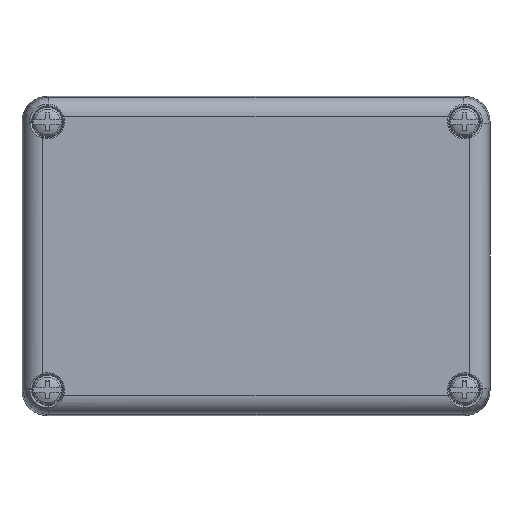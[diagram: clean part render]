
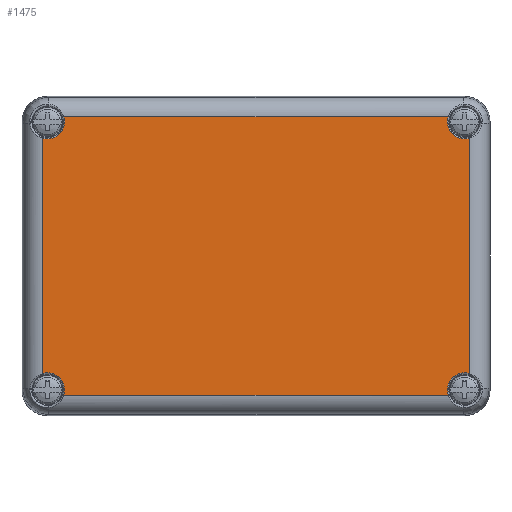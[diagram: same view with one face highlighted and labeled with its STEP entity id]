
A CAD part, top view. The second image highlights one B-rep face of the part: STEP entity #1475.
In plain terms, the highlighted planar face has unit normal (0, 0, 1).
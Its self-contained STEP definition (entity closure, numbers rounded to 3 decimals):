
#730=LINE('',#7535,#1056);
#731=LINE('',#7539,#1057);
#732=LINE('',#7540,#1058);
#733=LINE('',#7544,#1059);
#1056=VECTOR('',#4293,1.);
#1057=VECTOR('',#4296,1.);
#1058=VECTOR('',#4297,1.);
#1059=VECTOR('',#4300,1.);
#1206=FACE_OUTER_BOUND('',#1660,.T.);
#1475=ADVANCED_FACE('',(#1206),#1546,.F.);
#1546=PLANE('',#3774);
#1660=EDGE_LOOP('',(#2152,#2153,#2154,#2155,#2156,#2157,#2158,#2159));
#2152=ORIENTED_EDGE('',*,*,#3359,.T.);
#2153=ORIENTED_EDGE('',*,*,#3360,.T.);
#2154=ORIENTED_EDGE('',*,*,#3361,.F.);
#2155=ORIENTED_EDGE('',*,*,#3362,.F.);
#2156=ORIENTED_EDGE('',*,*,#3358,.T.);
#2157=ORIENTED_EDGE('',*,*,#3363,.T.);
#2158=ORIENTED_EDGE('',*,*,#3364,.F.);
#2159=ORIENTED_EDGE('',*,*,#3365,.F.);
#2773=VERTEX_POINT('',#6645);
#2783=VERTEX_POINT('',#6911);
#2787=VERTEX_POINT('',#7171);
#2799=VERTEX_POINT('',#7534);
#2800=VERTEX_POINT('',#7536);
#2801=VERTEX_POINT('',#7538);
#2802=VERTEX_POINT('',#7541);
#2803=VERTEX_POINT('',#7543);
#3358=EDGE_CURVE('',#2783,#2787,#3620,.T.);
#3359=EDGE_CURVE('',#2773,#2799,#3621,.T.);
#3360=EDGE_CURVE('',#2799,#2800,#730,.T.);
#3361=EDGE_CURVE('',#2801,#2800,#3622,.T.);
#3362=EDGE_CURVE('',#2783,#2801,#731,.T.);
#3363=EDGE_CURVE('',#2787,#2802,#732,.T.);
#3364=EDGE_CURVE('',#2803,#2802,#3623,.T.);
#3365=EDGE_CURVE('',#2773,#2803,#733,.T.);
#3620=CIRCLE('',#3770,4.018);
#3621=CIRCLE('',#3771,4.018);
#3622=CIRCLE('',#3772,4.018);
#3623=CIRCLE('',#3773,4.018);
#3770=AXIS2_PLACEMENT_3D('',#7455,#4289,#4290);
#3771=AXIS2_PLACEMENT_3D('',#7533,#4291,#4292);
#3772=AXIS2_PLACEMENT_3D('',#7537,#4294,#4295);
#3773=AXIS2_PLACEMENT_3D('',#7542,#4298,#4299);
#3774=AXIS2_PLACEMENT_3D('',#7545,#4301,#4302);
#4289=DIRECTION('',(0.,0.,-1.));
#4290=DIRECTION('',(-1.,0.,0.));
#4291=DIRECTION('',(0.,0.,-1.));
#4292=DIRECTION('',(1.,0.,0.));
#4293=DIRECTION('',(0.,1.,0.));
#4294=DIRECTION('',(0.,0.,1.));
#4295=DIRECTION('',(1.,0.,0.));
#4296=DIRECTION('',(1.,0.,0.));
#4297=DIRECTION('',(0.,-1.,0.));
#4298=DIRECTION('',(0.,0.,1.));
#4299=DIRECTION('',(-1.,0.,0.));
#4300=DIRECTION('',(-1.,0.,0.));
#4301=DIRECTION('',(0.,0.,-1.));
#4302=DIRECTION('',(-1.,0.,0.));
#6645=CARTESIAN_POINT('',(45.173,-32.724,15.));
#6911=CARTESIAN_POINT('',(-45.173,32.724,15.));
#7171=CARTESIAN_POINT('',(-50.224,27.673,15.));
#7455=CARTESIAN_POINT('',(-49.,31.5,15.));
#7533=CARTESIAN_POINT('',(49.,-31.5,15.));
#7534=CARTESIAN_POINT('',(50.224,-27.673,15.));
#7535=CARTESIAN_POINT('',(50.224,-27.673,15.));
#7536=CARTESIAN_POINT('',(50.224,27.673,15.));
#7537=CARTESIAN_POINT('',(49.,31.5,15.));
#7538=CARTESIAN_POINT('',(45.173,32.724,15.));
#7539=CARTESIAN_POINT('',(-45.173,32.724,15.));
#7540=CARTESIAN_POINT('',(-50.224,27.673,15.));
#7541=CARTESIAN_POINT('',(-50.224,-27.673,15.));
#7542=CARTESIAN_POINT('',(-49.,-31.5,15.));
#7543=CARTESIAN_POINT('',(-45.173,-32.724,15.));
#7544=CARTESIAN_POINT('',(45.173,-32.724,15.));
#7545=CARTESIAN_POINT('',(-50.233,32.733,15.));
